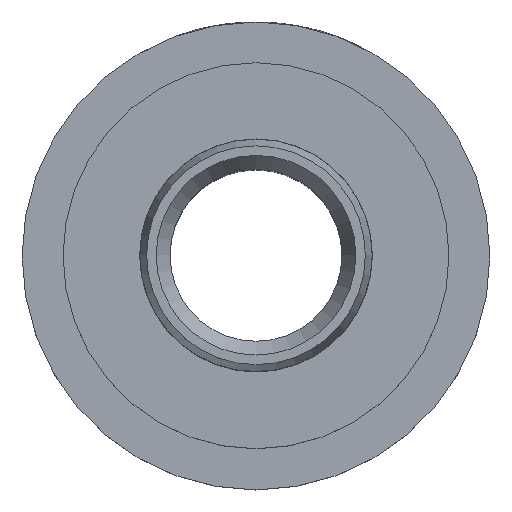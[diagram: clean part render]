
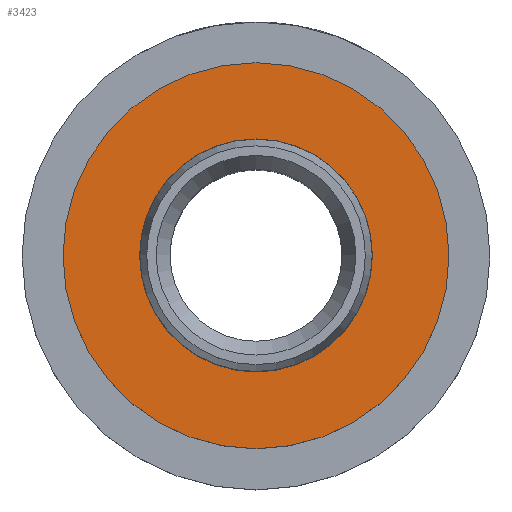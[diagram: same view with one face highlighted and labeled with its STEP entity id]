
A CAD part, top view. The second image highlights one B-rep face of the part: STEP entity #3423.
In plain terms, the highlighted planar face has unit normal (0, 0, 1).
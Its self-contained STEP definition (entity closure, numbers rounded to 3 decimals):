
#31=FACE_BOUND('',#528,.T.);
#111=PLANE('',#3659);
#338=FACE_OUTER_BOUND('',#527,.T.);
#527=EDGE_LOOP('',(#2897,#2898));
#528=EDGE_LOOP('',(#2899,#2900));
#1059=CIRCLE('',#3657,9.349);
#1060=CIRCLE('',#3658,9.349);
#1061=CIRCLE('',#3660,16.499);
#1062=CIRCLE('',#3661,16.499);
#1576=VERTEX_POINT('',#7575);
#1577=VERTEX_POINT('',#7576);
#1578=VERTEX_POINT('',#7581);
#1579=VERTEX_POINT('',#7582);
#2073=EDGE_CURVE('',#1576,#1577,#1059,.T.);
#2074=EDGE_CURVE('',#1577,#1576,#1060,.T.);
#2076=EDGE_CURVE('',#1578,#1579,#1061,.T.);
#2077=EDGE_CURVE('',#1579,#1578,#1062,.T.);
#2897=ORIENTED_EDGE('',*,*,#2076,.F.);
#2898=ORIENTED_EDGE('',*,*,#2077,.F.);
#2899=ORIENTED_EDGE('',*,*,#2073,.T.);
#2900=ORIENTED_EDGE('',*,*,#2074,.T.);
#3423=ADVANCED_FACE('',(#338,#31),#111,.T.);
#3657=AXIS2_PLACEMENT_3D('',#7577,#4308,#4309);
#3658=AXIS2_PLACEMENT_3D('',#7578,#4310,#4311);
#3659=AXIS2_PLACEMENT_3D('',#7580,#4313,#4314);
#3660=AXIS2_PLACEMENT_3D('',#7583,#4315,#4316);
#3661=AXIS2_PLACEMENT_3D('',#7584,#4317,#4318);
#4308=DIRECTION('center_axis',(0.,0.,-1.));
#4309=DIRECTION('ref_axis',(1.,0.,0.));
#4310=DIRECTION('center_axis',(0.,0.,-1.));
#4311=DIRECTION('ref_axis',(1.,0.,0.));
#4313=DIRECTION('center_axis',(0.,0.,1.));
#4314=DIRECTION('ref_axis',(1.,0.,0.));
#4315=DIRECTION('center_axis',(0.,0.,-1.));
#4316=DIRECTION('ref_axis',(1.,0.,0.));
#4317=DIRECTION('center_axis',(0.,0.,-1.));
#4318=DIRECTION('ref_axis',(1.,0.,0.));
#7575=CARTESIAN_POINT('',(0.,9.349,48.1));
#7576=CARTESIAN_POINT('',(0.,-9.349,48.1));
#7577=CARTESIAN_POINT('Origin',(0.,0.,48.1));
#7578=CARTESIAN_POINT('Origin',(0.,0.,48.1));
#7580=CARTESIAN_POINT('Origin',(0.,16.499,48.1));
#7581=CARTESIAN_POINT('',(0.,16.499,48.1));
#7582=CARTESIAN_POINT('',(0.,-16.499,48.1));
#7583=CARTESIAN_POINT('Origin',(0.,0.,48.1));
#7584=CARTESIAN_POINT('Origin',(0.,0.,48.1));
